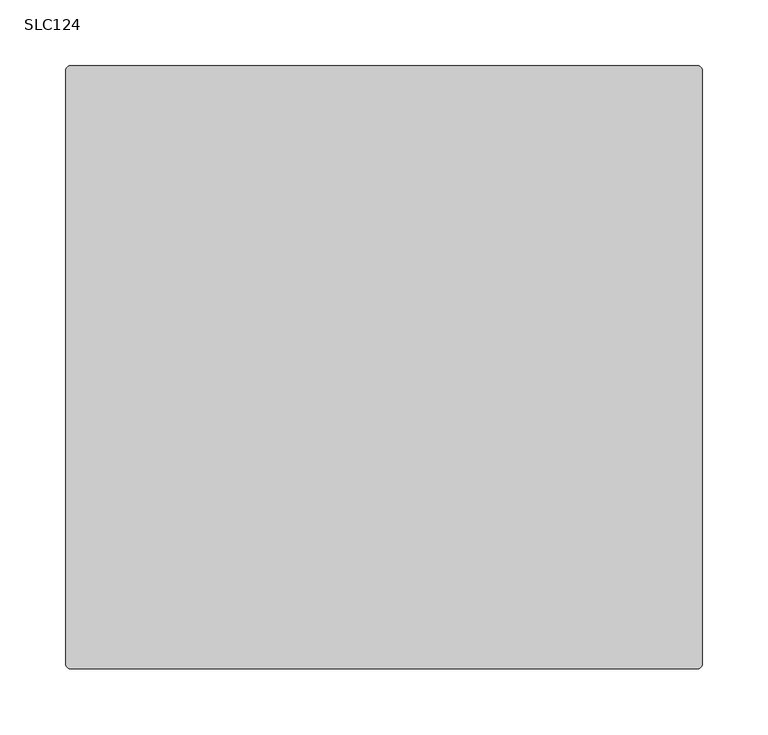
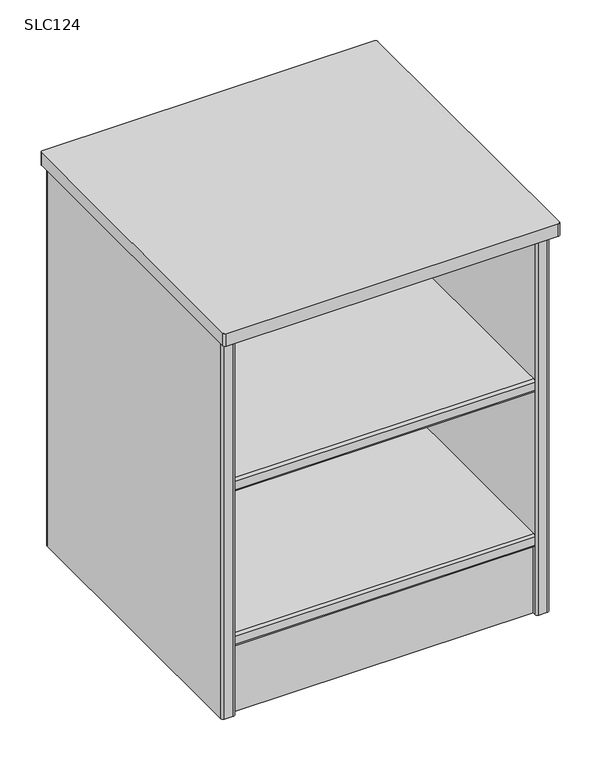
"""IFC4 building model written with IfcOpenShell, lengths in millimetres: furniture geometry, Stance_HC-Lotus-Bedside_Table : SLC124."""

from ifc_helpers import new_model, si_unit, point, frame, frame_2d, origin, origin_with_axes, place, context, project, spatial, polyline, circle_curve, trimmed, segment, composite_curve, outline, extrude, source, transform, mapped, element, save


def slc124_b616c2b7(model_context):
    return source(origin(), model_context, "Body", "SweptSolid", [
        extrude(outline(composite_curve([segment(polyline([(-434.1812621, 355.600003), (-25.4000008, 355.600003), (-25.4000008, 336.550003), (-434.1812621, 336.550003)]), True, "CONTINUOUS"), segment(trimmed(circle_curve(frame_2d((-434.1812621, 339.725003)), 3.175), [point((-434.1812621, 336.550003))], [point((-437.3562621, 339.725003))], False, "CARTESIAN"), True, "CONTINUOUS"), segment(polyline([(-437.3562621, 339.725003), (-437.3562621, 352.425003)]), True, "CONTINUOUS"), segment(trimmed(circle_curve(frame_2d((-434.1812621, 352.425003)), 3.175), [point((-437.3562621, 352.425003))], [point((-434.1812621, 355.600003))], False, "CARTESIAN"), True, "CONTINUOUS")], self_intersect=False)), frame((25.4000008, 0.0, 0.0), z_axis=(1.0, 0.0, 0.0), x_axis=(0.0, 1.0, 0.0)), (0.0, 0.0, 1.0), 431.7999992),
        extrude(outline(composite_curve([segment(polyline([(-434.1812621, 120.650003), (-25.4000008, 120.650003), (-25.4000008, 101.600003), (-434.1812621, 101.600003)]), True, "CONTINUOUS"), segment(trimmed(circle_curve(frame_2d((-434.1812621, 104.775003)), 3.175), [point((-434.1812621, 101.600003))], [point((-437.3562621, 104.775003))], False, "CARTESIAN"), True, "CONTINUOUS"), segment(polyline([(-437.3562621, 104.775003), (-437.3562621, 117.475003)]), True, "CONTINUOUS"), segment(trimmed(circle_curve(frame_2d((-434.1812621, 117.475003)), 3.175), [point((-437.3562621, 117.475003))], [point((-434.1812621, 120.650003))], False, "CARTESIAN"), True, "CONTINUOUS")], self_intersect=False)), frame((25.4000008, 0.0, 0.0), z_axis=(1.0, 0.0, 0.0), x_axis=(0.0, 1.0, 0.0)), (0.0, 0.0, 1.0), 431.7999992),
        extrude(outline(composite_curve([segment(trimmed(circle_curve(frame_2d((22.2250008, -6.3500001)), 3.175), [point((22.2250008, -3.1750001))], [point((25.4000008, -6.3500001))], False, "CARTESIAN"), True, "CONTINUOUS"), segment(polyline([(25.4000008, -6.3500001), (25.4000008, -438.1499879)]), True, "CONTINUOUS"), segment(trimmed(circle_curve(frame_2d((22.2250008, -438.1499879)), 3.175), [point((25.4000008, -438.1499879))], [point((22.2250008, -441.3249879))], False, "CARTESIAN"), True, "CONTINUOUS"), segment(polyline([(22.2250008, -441.3249879), (9.5250002, -441.3249879)]), True, "CONTINUOUS"), segment(trimmed(circle_curve(frame_2d((9.5250002, -438.1499879)), 3.175), [point((9.5250002, -441.3249879))], [point((6.3500002, -438.1499879))], False, "CARTESIAN"), True, "CONTINUOUS"), segment(polyline([(6.3500002, -438.1499879), (6.3500002, -6.3500001)]), True, "CONTINUOUS"), segment(trimmed(circle_curve(frame_2d((9.5250002, -6.3500001)), 3.175), [point((6.3500002, -6.3500001))], [point((9.5250002, -3.1750001))], False, "CARTESIAN"), True, "CONTINUOUS"), segment(polyline([(9.5250002, -3.1750001), (22.2250008, -3.1750001)]), True, "CONTINUOUS")], self_intersect=False)), origin_with_axes(), (0.0, 0.0, 1.0), 577.8500121),
        extrude(outline(composite_curve([segment(polyline([(460.375, -3.1750001), (473.0750006, -3.1750001)]), True, "CONTINUOUS"), segment(trimmed(circle_curve(frame_2d((473.0750006, -6.3500001)), 3.175), [point((473.0750006, -3.1750001))], [point((476.2500006, -6.3500001))], False, "CARTESIAN"), True, "CONTINUOUS"), segment(polyline([(476.2500006, -6.3500001), (476.2500006, -438.1499879)]), True, "CONTINUOUS"), segment(trimmed(circle_curve(frame_2d((473.0750006, -438.1499879)), 3.175), [point((476.2500006, -438.1499879))], [point((473.0750006, -441.3249879))], False, "CARTESIAN"), True, "CONTINUOUS"), segment(polyline([(473.0750006, -441.3249879), (460.375, -441.3249879)]), True, "CONTINUOUS"), segment(trimmed(circle_curve(frame_2d((460.375, -438.1499879)), 3.175), [point((460.375, -441.3249879))], [point((457.2, -438.1499879))], False, "CARTESIAN"), True, "CONTINUOUS"), segment(polyline([(457.2, -438.1499879), (457.2, -6.3500001)]), True, "CONTINUOUS"), segment(trimmed(circle_curve(frame_2d((460.375, -6.3500001)), 3.175), [point((457.2, -6.3500001))], [point((460.375, -3.1750001))], False, "CARTESIAN"), True, "CONTINUOUS")], self_intersect=False)), origin_with_axes(), (0.0, 0.0, 1.0), 577.8500121),
        extrude(outline(composite_curve([segment(trimmed(circle_curve(frame_2d((479.425, -3.175)), 3.175), [point((479.425, 0.0))], [point((482.6, -3.175))], False, "CARTESIAN"), True, "CONTINUOUS"), segment(polyline([(482.6, -3.175), (482.6, -454.025)]), True, "CONTINUOUS"), segment(trimmed(circle_curve(frame_2d((479.425, -454.025)), 3.175), [point((482.6, -454.025))], [point((479.425, -457.2))], False, "CARTESIAN"), True, "CONTINUOUS"), segment(polyline([(479.425, -457.2), (3.175, -457.2)]), True, "CONTINUOUS"), segment(trimmed(circle_curve(frame_2d((3.175, -454.025)), 3.175), [point((3.175, -457.2))], [point((0.0, -454.025))], False, "CARTESIAN"), True, "CONTINUOUS"), segment(polyline([(0.0, -454.025), (0.0, -3.175)]), True, "CONTINUOUS"), segment(trimmed(circle_curve(frame_2d((3.175, -3.175)), 3.175), [point((0.0, -3.175))], [point((3.175, 0.0))], False, "CARTESIAN"), True, "CONTINUOUS"), segment(polyline([(3.175, 0.0), (479.425, 0.0)]), True, "CONTINUOUS")], self_intersect=False)), frame((0.0, 0.0, 577.8500121), z_axis=(0.0, 0.0, 1.0), x_axis=(1.0, 0.0, 0.0)), (0.0, 0.0, 1.0), 19.0499879),
        extrude(outline(polyline([(25.4000008, -414.3375), (457.2, -414.3375), (457.2, -433.3875), (25.4000008, -433.3875), (25.4000008, -414.3375)])), origin_with_axes(), (0.0, 0.0, 1.0), 101.600003),
        extrude(outline(polyline([(457.2, -19.05), (25.4000008, -19.05), (25.4000008, 0.0), (457.2, 0.0), (457.2, -19.05)])), origin_with_axes(), (0.0, 0.0, 1.0), 577.8500121),
    ])


if __name__ == "__main__":
    model = new_model("IFC4")
    model_context = context("Model", 3, world=origin())
    ifc_project = project(units=[si_unit("LENGTHUNIT", "METRE", prefix="MILLI")], contexts=[model_context])
    site = spatial("IfcSite", under=ifc_project)
    building = spatial("IfcBuilding", under=site)
    placement = place(None, origin())
    slc124_shape = slc124_b616c2b7(model_context)
    element("IfcFurniture", 1, ObjectType="Stance_HC-Lotus-Bedside_Table : SLC124", at=placement, inside=building, context=model_context, shape_type="MappedRepresentation", body=[
        mapped(slc124_shape, transform((0.0, 0.0, 0.0), x_axis=(1.0, 0.0, 0.0), y_axis=(0.0, 1.0, 0.0), z_axis=(0.0, 0.0, 1.0))),
    ])
    save(model, "model.ifc")
